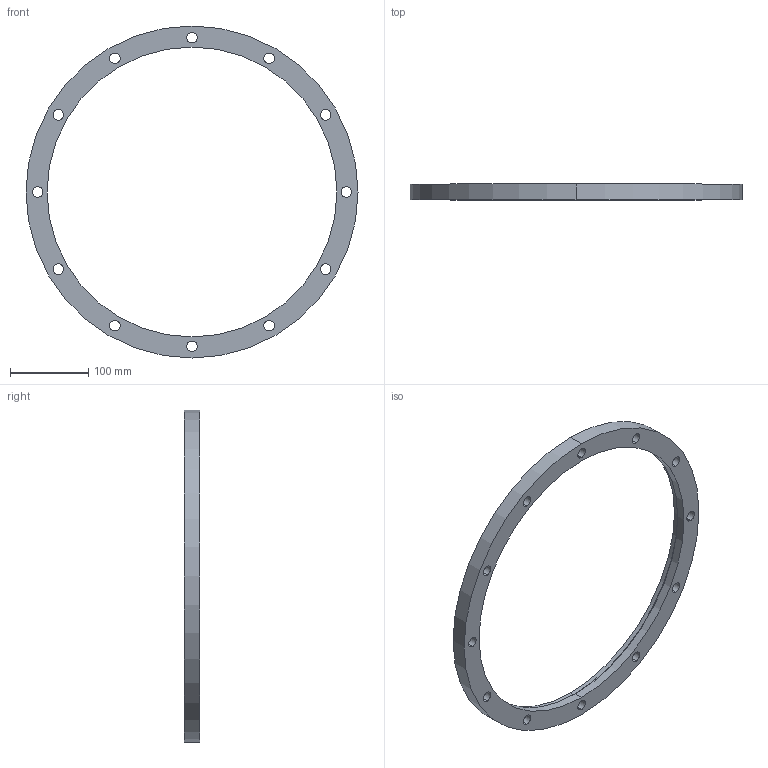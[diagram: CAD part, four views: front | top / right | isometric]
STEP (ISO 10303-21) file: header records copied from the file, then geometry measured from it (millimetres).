
FILE_DESCRIPTION (( 'STEP AP214' ), '1' );
FILE_NAME ('W5UEF320.STEP', '2021-01-27T10:48:49', ( '' ), ( '' ), 'SwSTEP 2.0', 'SolidWorks 2020', '' );
FILE_SCHEMA (( 'AUTOMOTIVE_DESIGN' ));
Length unit declared in the file: millimetre
Products named in the file (1): W5UEF320
Bounding box: 425 x 20 x 425 mm (x, y, z)
Volume: 614973.3 mm3; surface area: 123151.6 mm2
Topology: 1 solids, 1 shells, 35 faces, 94 edges, 62 vertices
Faces by surface type: cylinder 30, plane 3, torus 2
Entity records: 1222 total; most frequent: DIRECTION 230, CARTESIAN_POINT 192, ORIENTED_EDGE 188, AXIS2_PLACEMENT_3D 100, EDGE_CURVE 94, CIRCLE 64, EDGE_LOOP 62, VERTEX_POINT 62
